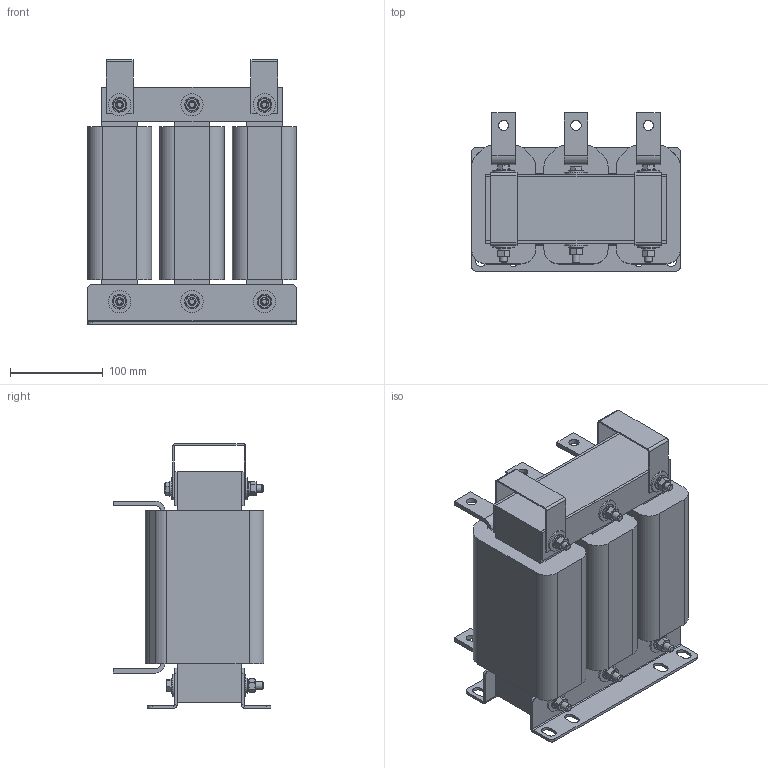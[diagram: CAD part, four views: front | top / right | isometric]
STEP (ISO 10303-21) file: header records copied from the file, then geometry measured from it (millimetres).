
FILE_DESCRIPTION(('STEP AP203'), '1');
FILE_NAME('Ñåòåâîé äðîññåëü _ ISF-160_305-4', '', ('UNSPECIFIED'), ('UNSPECIFIED'), 'C3D Converter', 'C3D Toolkit', '');
FILE_SCHEMA(('CONFIG_CONTROL_DESIGN'));
Length unit declared in the file: millimetre
Products named in the file (17): ISF-160_305-4; DIN 125 (A); ГОСТ 15591-70; DIN 127 (A); DIN 934
Assembly tree (63 placements, depth 3):
  ISF-160_305-4
    ISF-160_305-4
    ISF-160_305-4  x2
    ISF-160_305-4  x3
    ISF-160_305-4  x6
    ISF-160_305-4  x2
    (unnamed)  x12
      (unnamed)
    DIN 125 (A)  x12
      (unnamed)
    ГОСТ 15591-70  x6
      (unnamed)
    DIN 127 (A)  x6
      (unnamed)
    DIN 934  x6
      (unnamed)
    ISF-160_305-4  x2
Bounding box: 225 x 170 x 285 mm (x, y, z)
Volume: 5462062.9 mm3; surface area: 725501.8 mm2
Topology: 59 solids, 59 shells, 622 faces, 1344 edges, 846 vertices
Faces by surface type: plane 354, cylinder 166, cone 96, torus 6
Full cylindrical faces by diameter (mm): 6.647 x6, 8 x28, 8.4 x24, 11 x6, 16 x12, 24 x12
Entity records: 8155 total; most frequent: CARTESIAN_POINT 1693, DIRECTION 932, ORIENTED_EDGE 754, EDGE_CURVE 377, AXIS2_PLACEMENT_3D 352, VERTEX_POINT 255, EDGE_LOOP 250, LINE 228
